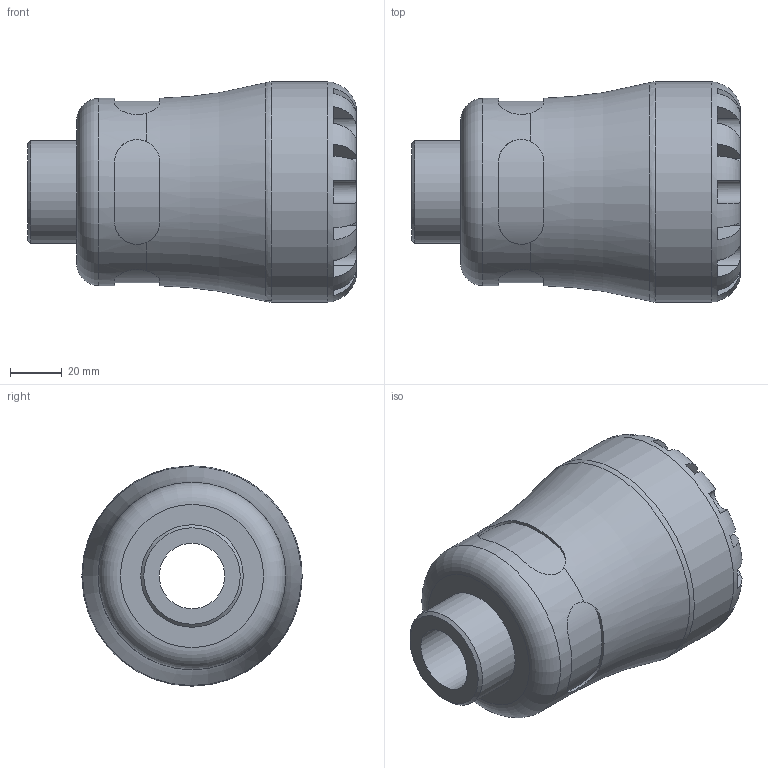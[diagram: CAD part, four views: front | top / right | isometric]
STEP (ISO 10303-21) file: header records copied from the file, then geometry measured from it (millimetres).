
FILE_DESCRIPTION(/* description */ ('PLASSON MALE INTEGRAL BRASS THREAD 50X1.1/4" SERIES 1'),/* implementation_level */ '2;1');
FILE_NAME(/* name */ 'C:\Dropbox\KIMPROJECTS-Inventor\99-16-3568-Processing\1072\107200050013_197200050013.ipt.stp',/* time_stamp */ '2017-01-22T10:49:07+02:00',/* author */ ('KIM'),/* organization */ (''),/* preprocessor_version */ 'ST-DEVELOPER v15.6',/* originating_system */ 'Autodesk Inventor 2015',/* authorisation */ '');
FILE_SCHEMA (('AUTOMOTIVE_DESIGN { 1 0 10303 214 3 1 1 }'));
Length unit declared in the file: millimetre
Products named in the file (1): 107200050013_197200050013
Bounding box: 127 x 85 x 85 mm (x, y, z)
Volume: 341593.2 mm3; surface area: 54619.6 mm2
Topology: 1 solids, 1 shells, 99 faces, 255 edges, 160 vertices
Faces by surface type: plane 60, cylinder 33, torus 4, cone 2
Full cylindrical faces by diameter (mm): 25.306 x1, 39.592 x1, 50 x1, 72.25 x1, 85 x1
Entity records: 3867 total; most frequent: CARTESIAN_POINT 1466, ORIENTED_EDGE 482, DIRECTION 458, EDGE_CURVE 241, AXIS2_PLACEMENT_3D 189, VERTEX_POINT 157, EDGE_LOOP 114, STYLED_ITEM 100
